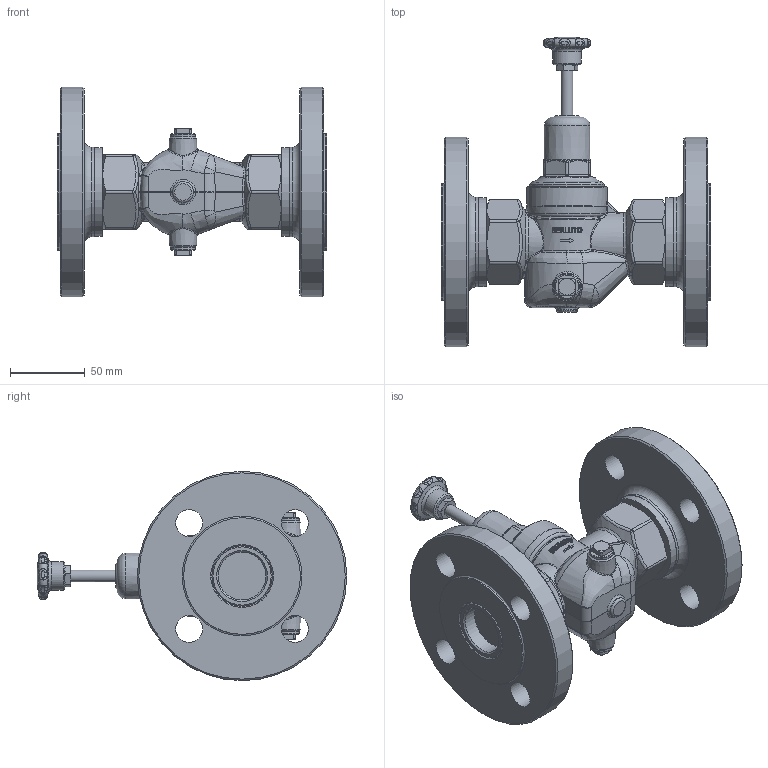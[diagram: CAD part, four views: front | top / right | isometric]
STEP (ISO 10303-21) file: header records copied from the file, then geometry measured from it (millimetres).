
FILE_DESCRIPTION(/* description */ (''),/* implementation_level */ '2;1');
FILE_NAME(/* name */ 'U:/AirCom-Produktdokumentation/Druckregler/RWF/Zeichnungen/CAD-Aircom/3D/B-RWF-10B.step',/* time_stamp */ '2022-07-05T07:31:31+02:00',/* author */ (''),/* organization */ (''),/* preprocessor_version */ 'ST-DEVELOPER v19',/* originating_system */ 'Autodesk Translation Framework v11.7.0.108',/* authorisation */ '');
FILE_SCHEMA (('AUTOMOTIVE_DESIGN { 1 0 10303 214 3 1 1 }'));
Products named in the file (1): 050205_step
Bounding box: 180 x 206.94 x 140 mm (x, y, z)
Volume: 913461.7 mm3; surface area: 120417.2 mm2
Topology: 1 solids, 2 shells, 820 faces, 2055 edges, 1276 vertices
Faces by surface type: bspline 319, plane 262, cylinder 133, cone 62, torus 29, sphere 15
Full cylindrical faces by diameter (mm): 3 x1, 8 x2, 8.4 x1, 10 x1, 14 x1, 16.5 x2, 18 x8, 19 x1, 27 x1, 32 x2, 50 x1, 54 x1, 59.5 x2, 60 x2, 78 x2, 140 x2
Entity records: 67735 total; most frequent: CARTESIAN_POINT 49154, ORIENTED_EDGE 4094, DIRECTION 3063, EDGE_CURVE 2047, VERTEX_POINT 1276, AXIS2_PLACEMENT_3D 1197, EDGE_LOOP 893, FACE_OUTER_BOUND 820
